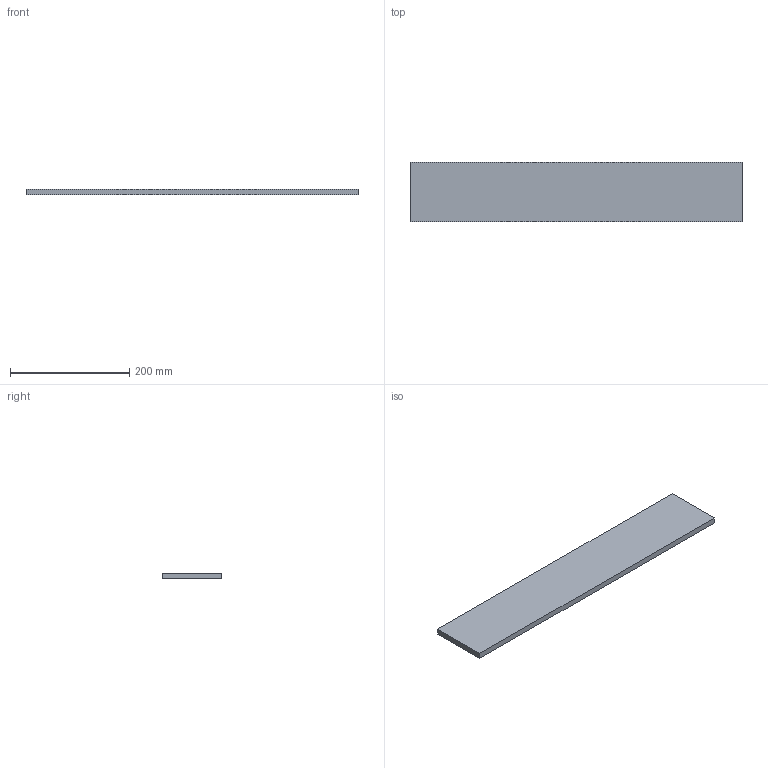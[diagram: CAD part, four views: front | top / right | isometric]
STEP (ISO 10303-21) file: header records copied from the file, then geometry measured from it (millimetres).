
FILE_DESCRIPTION(('CAx-IF Rec.Pracs.---Model Styling and Organization---1.2---2011-12-15','CAx-IF Rec.Pracs.---Geometric and Assembly Validation Properties---4.1---2014-06-16','CAx-IF Rec.Pracs.---PMI Polyline Presentation---2.0---2013-05-24'),'2;1');
FILE_NAME('R5BBSD06.stp','2021-05-06T03:20:14+03:00',(''),(''),'STEP Interface 4.4 by CT CoreTechnologie','3D_Evolution4.4 by CT CoreTechnologie','');
FILE_SCHEMA(('AUTOMOTIVE_DESIGN { 1 0 10303 214 1 1 1 1 }'));
Length unit declared in the file: millimetre
Products named in the file (2): R5BBSD06; RB.1304.00.00.0_-01
Assembly tree (1 placements, depth 2):
  R5BBSD06
    RB.1304.00.00.0_-01
Bounding box: 556 x 100 x 10 mm (x, y, z)
Surface area: 124320 mm2 (no closed solid volume)
Topology: 0 solids, 1 shells, 6 faces, 12 edges, 8 vertices
Faces by surface type: plane 6
Entity records: 229 total; most frequent: CARTESIAN_POINT 28, DIRECTION 28, ORIENTED_EDGE 24, VECTOR 12, LINE 12, EDGE_CURVE 12, AXIS2_PLACEMENT_3D 8, VERTEX_POINT 8
